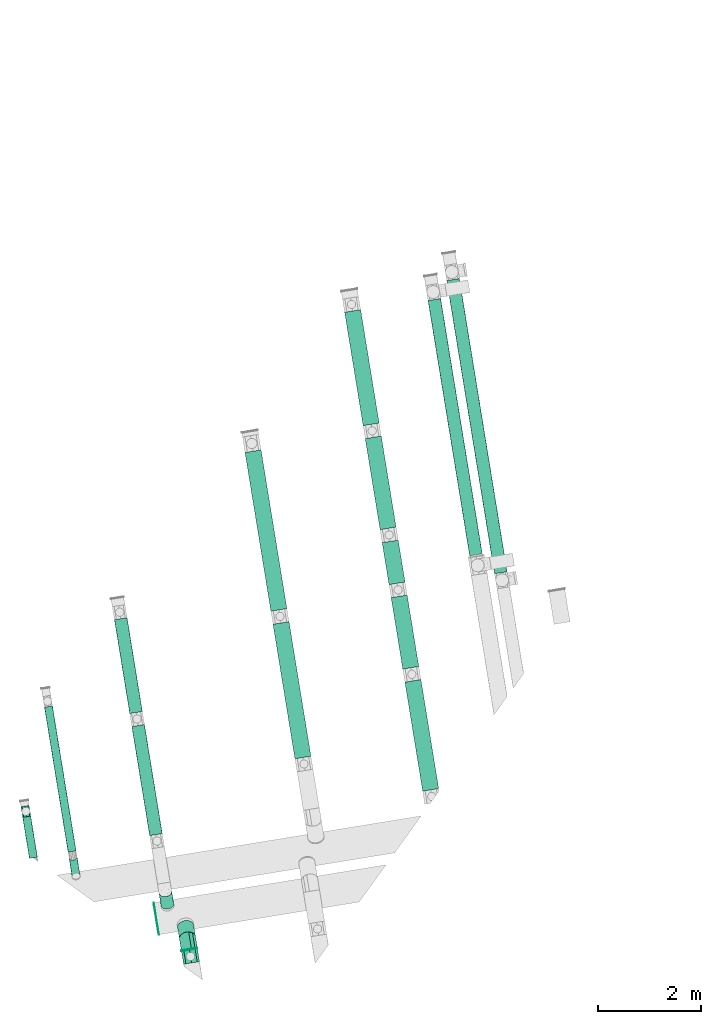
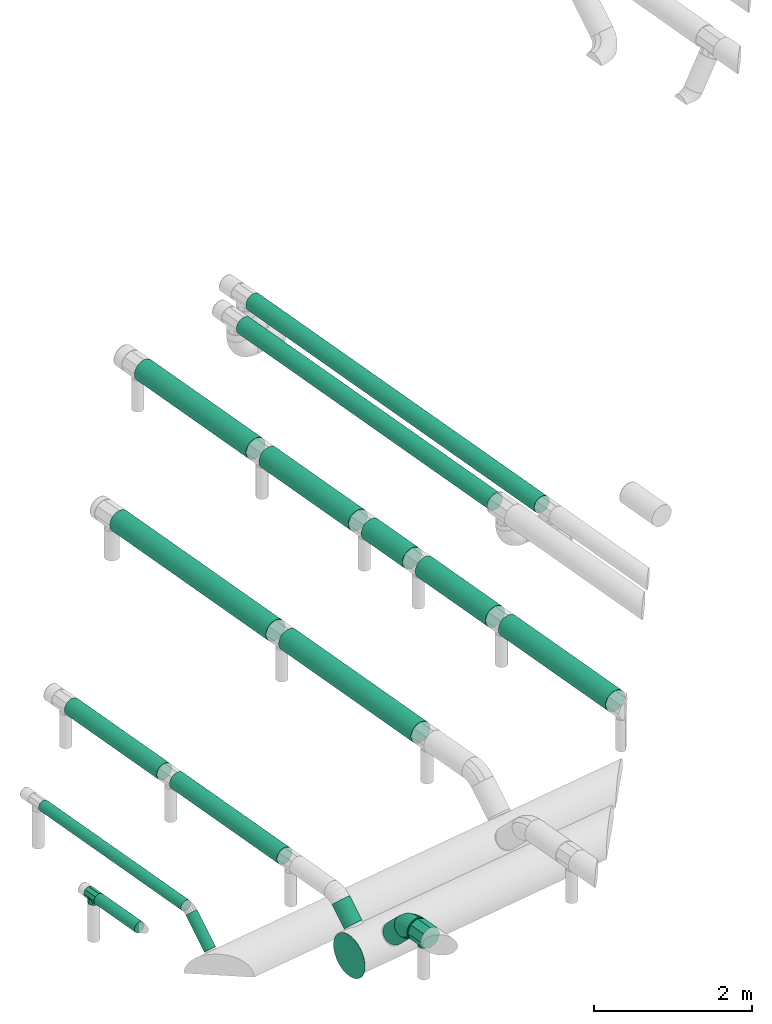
# One storey, part 1 of 15: 17 flow segments, 4 flow fittings.
"""IFC2X3 building model written with IfcOpenShell, lengths in millimetres."""

import ifcopenshell
import ifcopenshell.guid

model = None  # the IFC model being written
_history = None  # IfcOwnerHistory: only IFC2X3 demands one
_inside = {}  # id of a spatial element -> (the spatial element, [elements in it])
_under = {}  # id of a project, library or spatial element -> (it, [spatial elements below it])
_declared = {}  # id of a project -> (the project, [libraries it declares])
_typed = {}  # id of a type object -> (the type object, [elements of that type])
_made_of = {}  # id of a material, layer set ... -> (it, [elements and type objects made of it])


def new_model(schema):
    """Start an empty IFC model of exactly this schema.

    Asked for "IFC4X3", IfcOpenShell would pick the latest addendum, in which some entities
    have other attributes; the version numbers below select the first issue.
    IFC2X3 requires an IfcOwnerHistory on every rooted entity: one is made here for all.
    """
    global model, _history
    if schema == "IFC4X3":
        model = ifcopenshell.file(schema_version=(4, 3, 0, 0))
    else:
        model = ifcopenshell.file(schema=schema)
    _inside.clear()
    _under.clear()
    _declared.clear()
    _typed.clear()
    _made_of.clear()
    _history = None
    if model.schema == "IFC2X3":
        org = make("IfcOrganization", Name="unknown")
        user = make(
            "IfcPersonAndOrganization",
            ThePerson=make("IfcPerson", FamilyName="unknown"),
            TheOrganization=org,
        )
        app = make(
            "IfcApplication",
            ApplicationDeveloper=org,
            Version="unknown",
            ApplicationFullName="unknown",
            ApplicationIdentifier="unknown",
        )
        _history = make(
            "IfcOwnerHistory",
            OwningUser=user,
            OwningApplication=app,
            ChangeAction="ADDED",
            CreationDate=0,
        )
    return model


def make(cls, **values):
    """One entity of the class cls with the attributes given. An attribute that is None is left unset."""
    return model.create_entity(
        cls, **{name: value for name, value in values.items() if value is not None}
    )


def entity(cls, *values):
    """Any entity or typed value of the class cls, its attributes in the order of the schema. None: left unset."""
    e = model.create_entity(cls)
    for i, value in enumerate(values):
        if value is not None:
            e[i] = value
    return e


def rooted(cls, **values):
    """An entity with a GlobalId (a new one), such as an element, a storey or a relation."""
    return make(cls, GlobalId=ifcopenshell.guid.new(), OwnerHistory=_history, **values)


def si_unit(unit_type, name, prefix=None):
    """IfcSIUnit, for example si_unit("LENGTHUNIT", "METRE", prefix="MILLI")."""
    return make("IfcSIUnit", UnitType=unit_type, Prefix=prefix, Name=name)


def converted_unit(unit_type, name, factor, base, dimensions=None, offset=None):
    """IfcConversionBasedUnit, such as the inch: factor (a typed value) times the base unit."""
    return make(
        "IfcConversionBasedUnit"
        if offset is None
        else "IfcConversionBasedUnitWithOffset",
        ConversionOffset=offset,
        Dimensions=None
        if dimensions is None
        else entity("IfcDimensionalExponents", *dimensions),
        UnitType=unit_type,
        Name=name,
        ConversionFactor=make(
            "IfcMeasureWithUnit", ValueComponent=factor, UnitComponent=base
        ),
    )


def derived_unit(unit_type, elements):
    """IfcDerivedUnit: a product of units, each with its exponent."""
    return make(
        "IfcDerivedUnit",
        Elements=[
            make("IfcDerivedUnitElement", Unit=unit, Exponent=power)
            for unit, power in elements
        ],
        UnitType=unit_type,
    )


def assignment(units):
    """IfcUnitAssignment: the units of a project."""
    return None if units is None else make("IfcUnitAssignment", Units=units)


def point(xyz):
    """IfcCartesianPoint."""
    return None if xyz is None else make("IfcCartesianPoint", Coordinates=xyz)


def direction(xyz):
    """IfcDirection."""
    return None if xyz is None else make("IfcDirection", DirectionRatios=xyz)


def frame(location, z_axis=None, x_axis=None):
    """IfcAxis2Placement3D, a coordinate frame: its origin and axes. An axis left out is left unset."""
    return make(
        "IfcAxis2Placement3D",
        Location=point(location),
        Axis=direction(z_axis),
        RefDirection=direction(x_axis),
    )


def frame_2d(location, x_axis=None):
    """IfcAxis2Placement2D, a coordinate frame in the plane: its origin and x axis."""
    return make(
        "IfcAxis2Placement2D", Location=point(location), RefDirection=direction(x_axis)
    )


def origin():
    """The frame at (0, 0, 0) with its axes left unset."""
    return frame((0.0, 0.0, 0.0))


def origin_with_axes():
    """The frame at (0, 0, 0) with the z axis (0, 0, 1) and the x axis (1, 0, 0) written out."""
    return frame((0.0, 0.0, 0.0), z_axis=(0.0, 0.0, 1.0), x_axis=(1.0, 0.0, 0.0))


def origin_2d_with_axis():
    """The frame at (0, 0) in the plane with the x axis (1, 0) written out."""
    return frame_2d((0.0, 0.0), x_axis=(1.0, 0.0))


def place(relative_to, where):
    """IfcLocalPlacement: puts the frame where relative to a parent placement (None: the world)."""
    return make(
        "IfcLocalPlacement", PlacementRelTo=relative_to, RelativePlacement=where
    )


def context(
    kind, dimensions, precision=None, world=None, true_north=None, identifier=None
):
    """IfcGeometricRepresentationContext, for example the 3D "Model" context."""
    return make(
        "IfcGeometricRepresentationContext",
        ContextIdentifier=identifier,
        ContextType=kind,
        CoordinateSpaceDimension=dimensions,
        Precision=precision,
        WorldCoordinateSystem=world,
        TrueNorth=true_north,
    )


def subcontext(parent, identifier, kind, view, scale=None):
    """IfcGeometricRepresentationSubContext, for example "Body" below "Model"."""
    return make(
        "IfcGeometricRepresentationSubContext",
        ContextIdentifier=identifier,
        ContextType=kind,
        ParentContext=parent,
        TargetScale=scale,
        TargetView=view,
    )


def project(units=None, contexts=None):
    """IfcProject with its units and contexts."""
    return rooted(
        "IfcProject",
        Name="project",
        RepresentationContexts=contexts,
        UnitsInContext=assignment(units),
    )


def spatial(cls, under=None, at=None, **own):
    """A site, building, storey or space (cls), placed at a placement, below another one or the project."""
    s = rooted(cls, ObjectPlacement=at, **own)
    if under is not None:
        _under.setdefault(under.id(), (under, []))[1].append(s)
    return s


def profile(cls, at=None, kind="AREA", **sizes):
    """A parametric profile (cls). Its sizes go by their IFC names, for example OverallWidth=200.0."""
    return make(cls, ProfileType=kind, Position=at, **sizes)


def circle(**sizes):
    """IfcCircleProfileDef."""
    return profile("IfcCircleProfileDef", **sizes)


def extrude(swept, where, along, depth):
    """IfcExtrudedAreaSolid: the profile swept, set in the frame where, extruded along a direction by depth."""
    return make(
        "IfcExtrudedAreaSolid",
        SweptArea=swept,
        Position=where,
        ExtrudedDirection=direction(along),
        Depth=depth,
    )


def faces_of(points, faces, orient=None, outer=None):
    """IfcFace entities. A face is a list of loops; a loop is a list of indices into points, from 0.

    orient and outer hold one flag for each loop. By default every Orientation is true, the
    first loop of a face is its IfcFaceOuterBound and the others are IfcFaceBound.
    """
    made = []
    for i, loops in enumerate(faces):
        bounds = []
        for j, loop in enumerate(loops):
            is_outer = j == 0 if outer is None else outer[i][j]
            bounds.append(
                make(
                    "IfcFaceOuterBound" if is_outer else "IfcFaceBound",
                    Bound=make("IfcPolyLoop", Polygon=[points[k] for k in loop]),
                    Orientation=True if orient is None else orient[i][j],
                )
            )
        made.append(make("IfcFace", Bounds=bounds))
    return made


def faceted_brep(points, faces, orient=None, outer=None, voids=None):
    """IfcFacetedBrep: a solid bounded by flat faces; with voids (closed shells), ...WithVoids."""
    shared = [point(p) for p in points]
    hull = make("IfcClosedShell", CfsFaces=faces_of(shared, faces, orient, outer))
    if voids is None:
        return make("IfcFacetedBrep", Outer=hull)
    return make(
        "IfcFacetedBrepWithVoids",
        Outer=hull,
        Voids=[
            make(cls, CfsFaces=faces_of(shared, fs, o, b)) for cls, fs, o, b in voids
        ],
    )


def shape(context_of_items, identifier, shape_type, items):
    """IfcShapeRepresentation: the items that make up one representation, for example the "Body"."""
    return make(
        "IfcShapeRepresentation",
        ContextOfItems=context_of_items,
        RepresentationIdentifier=identifier,
        RepresentationType=shape_type,
        Items=items,
    )


def source(mapping_origin, context_of_items, identifier, shape_type, items):
    """IfcRepresentationMap: a shape defined once, which mapped items show again and again."""
    return make(
        "IfcRepresentationMap",
        MappingOrigin=mapping_origin,
        MappedRepresentation=shape(context_of_items, identifier, shape_type, items),
    )


def transform(
    local_origin,
    x_axis=None,
    y_axis=None,
    z_axis=None,
    scale=None,
    scale2=None,
    scale3=None,
    uniform=True,
):
    """IfcCartesianTransformationOperator3D, or its non-uniform kind. x_axis, y_axis, z_axis: its Axis1, 2, 3."""
    if uniform:
        return make(
            "IfcCartesianTransformationOperator3D",
            Axis1=direction(x_axis),
            Axis2=direction(y_axis),
            LocalOrigin=point(local_origin),
            Scale=scale,
            Axis3=direction(z_axis),
        )
    return make(
        "IfcCartesianTransformationOperator3DnonUniform",
        Axis1=direction(x_axis),
        Axis2=direction(y_axis),
        LocalOrigin=point(local_origin),
        Scale=scale,
        Axis3=direction(z_axis),
        Scale2=scale2,
        Scale3=scale3,
    )


def mapped(mapping_source, mapping_target):
    """IfcMappedItem: shows the shape of a source again, moved by a transform."""
    return make(
        "IfcMappedItem", MappingSource=mapping_source, MappingTarget=mapping_target
    )


def material(Name=None, Category=None):
    """IfcMaterial."""
    return make("IfcMaterial", Name=Name, Category=Category)


def made_of(thing, what):
    """Note that an element or type object is made of a material, layer set ...; save() writes the relation."""
    if what is not None:
        _made_of.setdefault(what.id(), (what, []))[1].append(thing)
    return thing


def type_object(cls, material=None, **own):
    """A type object (cls), such as IfcWallType, which elements share."""
    return made_of(rooted(cls, **own), material)


def element(
    cls,
    number,
    at=None,
    inside=None,
    cuts=None,
    type_object=None,
    material=None,
    context=None,
    identifier="Body",
    shape_type=None,
    held_by="IfcProductDefinitionShape",
    body=None,
    shapes=None,
    **own,
):
    """One element of the class cls, such as IfcWall. Its Tag is "e" and its number.

    at: its placement. inside: the storey or other place that contains it. cuts: it is an
    opening in that element (IfcRelVoidsElement). A single representation is given by context,
    identifier, shape_type and body (its items); several are given by shapes. held_by: the class
    of the entity that holds the representations. save() writes the other relations.
    """
    e = rooted(cls, Tag="e%d" % number, ObjectPlacement=at, **own)
    if body is not None:
        shapes = [shape(context, identifier, shape_type, body)]
    if shapes is not None:
        e.Representation = make(held_by, Representations=shapes)
    if inside is not None:
        _inside.setdefault(inside.id(), (inside, []))[1].append(e)
    if cuts is not None:
        rooted(
            "IfcRelVoidsElement", RelatingBuildingElement=cuts, RelatedOpeningElement=e
        )
    if type_object is not None:
        _typed.setdefault(type_object.id(), (type_object, []))[1].append(e)
    return made_of(e, material)


def aggregate(whole, parts):
    """IfcRelAggregates: a whole, such as a stair, and the parts it consists of."""
    return rooted("IfcRelAggregates", RelatingObject=whole, RelatedObjects=parts)


def save(model, path):
    """Write the relations noted so far, then the file.

    IfcRelAggregates (storeys below a building ...), IfcRelContainedInSpatialStructure (elements
    in a storey), IfcRelDefinesByType, IfcRelAssociatesMaterial and IfcRelDeclares: one each for
    every whole, place, type object, material and project.
    """
    for whole, parts in _under.values():
        aggregate(whole, parts)
    for where, things in _inside.values():
        rooted(
            "IfcRelContainedInSpatialStructure",
            RelatedElements=things,
            RelatingStructure=where,
        )
    for kind, things in _typed.values():
        rooted("IfcRelDefinesByType", RelatedObjects=things, RelatingType=kind)
    for what, things in _made_of.values():
        rooted("IfcRelAssociatesMaterial", RelatedObjects=things, RelatingMaterial=what)
    for by, libraries in _declared.values():
        rooted("IfcRelDeclares", RelatingContext=by, RelatedDefinitions=libraries)
    model.write(path)


model = new_model("IFC2X3")

# Units and contexts
model_context = context("Model", 3, precision=0.01, world=origin(), true_north=direction((6.12323399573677e-17, 1.0)))
plan_context = context("Plan", 3, precision=1e-05, world=origin_with_axes())
body_context = subcontext(model_context, "Body", "Model", "MODEL_VIEW")
ifc_project = project(units=[converted_unit("PLANEANGLEUNIT", "DEGREE", entity("IfcPositiveLengthMeasure", 0.0174532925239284), si_unit("PLANEANGLEUNIT", "RADIAN"), dimensions=[0, 0, 0, 0, 0, 0, 0]), si_unit("AREAUNIT", "SQUARE_METRE"), si_unit("LENGTHUNIT", "METRE", prefix="MILLI"), si_unit("MASSUNIT", "GRAM", prefix="KILO"), si_unit("POWERUNIT", "WATT"), si_unit("PRESSUREUNIT", "PASCAL", prefix="KILO"), si_unit("FORCEUNIT", "NEWTON", prefix="KILO"), si_unit("ELECTRICVOLTAGEUNIT", "VOLT"), si_unit("ELECTRICCURRENTUNIT", "AMPERE"), si_unit("THERMODYNAMICTEMPERATUREUNIT", "DEGREE_CELSIUS"), si_unit("TIMEUNIT", "SECOND"), si_unit("VOLUMEUNIT", "CUBIC_METRE"), derived_unit("LINEARVELOCITYUNIT", [(si_unit("LENGTHUNIT", "METRE"), 1), (si_unit("TIMEUNIT", "SECOND"), -1)]), derived_unit("VOLUMETRICFLOWRATEUNIT", [(si_unit("VOLUMEUNIT", "CUBIC_METRE"), 1), (si_unit("TIMEUNIT", "SECOND"), -1)]), derived_unit("THERMALTRANSMITTANCEUNIT", [(si_unit("POWERUNIT", "WATT"), 1), (si_unit("THERMODYNAMICTEMPERATUREUNIT", "KELVIN"), -1), (si_unit("AREAUNIT", "SQUARE_METRE"), -1)]), derived_unit("SOUNDPRESSUREUNIT", [(si_unit("PRESSUREUNIT", "PASCAL"), 1)])], contexts=[model_context, plan_context])

# Site, building, storey
site_placement = place(None, frame((5.09380697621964e-08, 5.80416781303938e-08, 0.0), z_axis=(0.0, 0.0, 1.0), x_axis=(-0.160806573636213, 0.986985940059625, 0.0)))
site = spatial("IfcSite", under=ifc_project, at=site_placement, Name="Default", CompositionType="ELEMENT")
building_placement = place(site_placement, frame((0.0, 0.0, 0.0), z_axis=(0.0, 0.0, 1.0), x_axis=(1.0, -2.77555756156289e-17, 0.0)))
building = spatial("IfcBuilding", under=site, at=building_placement, Name="Bygning (endres i Project Information)", CompositionType="ELEMENT")
storey_placement = place(building_placement, frame((0.0, 0.0, 51360.0000000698), z_axis=(0.0, 0.0, 1.0), x_axis=(1.0, -2.77555756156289e-17, 0.0)))
storey = spatial("IfcBuildingStorey", under=building, at=storey_placement, Name="H01-Nivå D+0,36", CompositionType="ELEMENT", Elevation=51360.0000000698)

# Flow fittings
ifc_material_1 = material(Name="DF_Material1")
duct_fitting_type_1 = type_object("IfcDuctFittingType", Name="Lindab TCPU:TCPU", PredefinedType="NOTDEFINED", material=ifc_material_1)
shared_shape_1 = source(origin(), body_context, "Body", "Brep", [
    faceted_brep([(104.500000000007, -56.56854258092, 56.5685425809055), (63.1966424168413, -63.1966424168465, 32.5870493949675), (104.500000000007, -80.0000001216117, 0.0), (80.0000001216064, -80.0000001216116, 0.0), (46.3932847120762, -46.3932847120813, 65.1740987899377), (104.500000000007, 0.0, 80.0000001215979), (0.0, 0.0, 80.0000001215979), (0.0, 0.0, -80.0000001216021), (104.500000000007, 0.0, -80.0000001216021), (56.680726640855, -56.6807266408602, -56.4561356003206), (104.500000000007, -56.5685425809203, -56.568542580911), (80.0000001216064, -105.0, 0.0), (56.5685425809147, -105.0, 56.5685425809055), (0.0, -105.0, 80.0000001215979), (-56.5685425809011, -105.0, 56.5685425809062), (-80.0000001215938, -105.0, 0.0), (-56.568542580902, -105.0, -56.5685425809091), (0.0, -105.0, -80.0000001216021), (56.568542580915, -105.0, -56.568542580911), (-56.6807266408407, -56.6807266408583, 56.4561356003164), (-80.0000001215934, -80.0000001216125, 0.0), (-63.1966424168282, -63.1966424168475, -32.5870493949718), (-46.3932847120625, -46.3932847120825, -65.1740987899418), (-104.499999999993, -80.000000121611, 0.0), (-104.499999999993, -56.5685425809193, 56.5685425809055), (-104.499999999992, 0.0, 80.0000001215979), (-104.499999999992, 56.5685425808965, 56.5685425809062), (-104.499999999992, 80.0000001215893, 0.0), (-104.499999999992, 56.5685425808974, -56.5685425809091), (-104.499999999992, 0.0, -80.0000001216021), (-104.499999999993, -56.5685425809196, -56.568542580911), (104.500000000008, 56.5685425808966, -56.5685425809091), (104.500000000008, 80.000000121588, 0.0), (104.500000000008, 56.5685425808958, 56.5685425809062)], [[[0, 1, 2]], [[2, 1, 3]], [[4, 5, 6]], [[5, 4, 0]], [[0, 4, 1]], [[7, 8, 9]], [[9, 8, 10]], [[10, 3, 9]], [[3, 10, 2]], [[11, 12, 13, 14, 15, 16, 17, 18]], [[13, 19, 14]], [[19, 13, 6]], [[20, 15, 14]], [[20, 14, 19]], [[15, 20, 16]], [[16, 20, 21, 22]], [[22, 7, 17]], [[22, 17, 16]], [[17, 9, 18]], [[9, 17, 7]], [[3, 11, 18]], [[3, 18, 9]], [[11, 3, 12]], [[12, 3, 1, 4]], [[4, 6, 13]], [[4, 13, 12]], [[23, 24, 25, 26, 27, 28, 29, 30]], [[0, 2, 10, 8, 31, 32, 33, 5]], [[25, 6, 5, 33, 26]], [[33, 32, 27, 26]], [[32, 31, 28, 27]], [[31, 8, 7, 29, 28]], [[7, 22, 29]], [[30, 22, 21]], [[29, 22, 30]], [[21, 23, 30]], [[23, 21, 20]], [[24, 23, 20]], [[24, 20, 19]], [[19, 25, 24]], [[25, 19, 6]]]),
])
flow_fitting_1_placement = place(storey_placement, frame((996792.70487067, -337705.59332722, 3804.40000000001), z_axis=(0.0, -1.0, 0.0), x_axis=(0.999999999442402, 0.0, 3.33945577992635e-05)))
element("IfcFlowFitting", 1, at=flow_fitting_1_placement, inside=storey, type_object=duct_fitting_type_1, material=ifc_material_1, Name="Lindab TCPU:TCPU", ObjectType="Lindab TCPU:TCPU", context=body_context, shape_type="MappedRepresentation", body=[
    mapped(shared_shape_1, transform((0.0, 0.0, 0.0), scale=1.0)),
])
duct_fitting_type_2 = type_object("IfcDuctFittingType", Name="Lindab ESU:ESU", PredefinedType="NOTDEFINED", material=ifc_material_1)
shared_shape_2 = source(origin(), body_context, "Body", "SweptSolid", [
    extrude(circle(Radius=315.000000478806, at=frame_2d((-1.10445267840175e-12, -1.25792074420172e-12), x_axis=(1.0, 0.0))), frame((0.0, 0.0, 0.0), z_axis=(1.0, 0.0, 0.0), x_axis=(0.0, 1.0, 0.0)), (0.0, 0.0, 1.0), 4.00000000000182),
])
flow_fitting_2_placement = place(storey_placement, frame((994331.171928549, -339870.486591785, 3250.00000038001), z_axis=(0.0, 0.0, 1.0), x_axis=(2.77555756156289e-17, 1.0, 0.0)))
element("IfcFlowFitting", 2, at=flow_fitting_2_placement, inside=storey, type_object=duct_fitting_type_2, material=ifc_material_1, Name="Lindab ESU:ESU", ObjectType="Lindab ESU:ESU", context=body_context, shape_type="MappedRepresentation", body=[
    mapped(shared_shape_2, transform((0.0, 0.0, 0.0), scale=1.0)),
])
duct_fitting_type_3 = type_object("IfcDuctFittingType", Name="Lindab TCPU:TCPU", PredefinedType="NOTDEFINED", material=ifc_material_1)
shared_shape_3 = source(origin(), body_context, "Body", "Brep", [
    faceted_brep([(80.0000001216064, -182.0, 0.0), (56.5685425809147, -182.0, 56.5685425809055), (0.0, -182.0, 80.0000001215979), (-56.5685425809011, -182.0, 56.5685425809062), (-80.0000001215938, -182.0, 0.0), (-56.568542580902, -182.0, -56.5685425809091), (0.0, -182.0, -80.0000001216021), (56.568542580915, -182.0, -56.568542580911), (-61.1652823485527, -148.820166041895, 51.5636330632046), (0.0, -135.66963571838, 80.0000001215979), (-80.0000001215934, -157.500000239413, 0.0), (-51.4607662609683, -145.101552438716, -61.2518534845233), (0.0, -135.669635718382, -80.0000001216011), (61.1652823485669, -148.820166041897, -51.5636330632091), (80.0000001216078, -157.500000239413, 0.0), (51.4669231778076, -145.103736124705, 61.2466802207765), (-128.0, -157.500000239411, 0.0), (-128.0, -134.434659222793, 55.6846591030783), (-128.0, -111.369318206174, 111.36931820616), (-128.0, 0.0, 157.500000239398), (-128.0, 111.369318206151, 111.369318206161), (-128.0, 157.500000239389, 0.0), (-128.0, 111.369318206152, -111.369318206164), (-128.0, 0.0, -157.500000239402), (-128.0, -111.369318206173, -111.369318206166), (-128.0, -134.434659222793, -55.6846591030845), (128.0, 0.0, -157.500000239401), (128.0, 111.369318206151, -111.369318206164), (128.0, 157.500000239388, 0.0), (128.0, 111.36931820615, 111.369318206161), (128.0, 0.0, 157.500000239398), (128.0, -111.369318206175, 111.36931820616), (128.0, -134.434659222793, 55.6846591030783), (128.0, -157.500000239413, 0.0), (128.0, -134.434659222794, -55.6846591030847), (128.0, -111.369318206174, -111.369318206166)], [[[0, 1, 2, 3, 4, 5, 6, 7]], [[2, 8, 3]], [[8, 2, 9]], [[10, 4, 3]], [[10, 3, 8]], [[10, 5, 4]], [[5, 10, 11]], [[11, 12, 6]], [[11, 6, 5]], [[6, 13, 7]], [[13, 6, 12]], [[14, 0, 7]], [[14, 7, 13]], [[14, 1, 0]], [[1, 14, 15]], [[15, 9, 2]], [[15, 2, 1]], [[16, 17, 18, 19, 20, 21, 22, 23, 24, 25]], [[26, 27, 28, 29, 30, 31, 32, 33, 34, 35]], [[20, 19, 30, 29]], [[29, 28, 21, 20]], [[28, 27, 22, 21]], [[27, 26, 23, 22]], [[26, 35, 24, 23]], [[24, 35, 12]], [[24, 12, 11]], [[35, 13, 12]], [[13, 33, 14]], [[33, 13, 35, 34]], [[10, 16, 25]], [[11, 25, 24]], [[10, 25, 11]], [[14, 32, 15]], [[16, 10, 8]], [[16, 8, 18, 17]], [[33, 32, 14]], [[9, 15, 31]], [[31, 15, 32]], [[19, 18, 31, 30]], [[31, 18, 9]], [[18, 8, 9]]]),
])
flow_fitting_3_placement = place(storey_placement, frame((993501.492374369, -340406.158897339, 3804.29489743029), z_axis=(2.77555756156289e-17, 1.0, 0.0), x_axis=(-1.0, 2.77555756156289e-17, 0.0)))
element("IfcFlowFitting", 3, at=flow_fitting_3_placement, inside=storey, type_object=duct_fitting_type_3, material=ifc_material_1, Name="Lindab TCPU:TCPU", ObjectType="Lindab TCPU:TCPU", context=body_context, shape_type="MappedRepresentation", body=[
    mapped(shared_shape_3, transform((0.0, 0.0, 0.0), scale=1.0)),
])
ifc_material_2 = material(Name="3601.001 Avtrekk")
duct_fitting_type_4 = type_object("IfcDuctFittingType", Name="magicirc_elbow_full_radius_NOR:magicirc_elbow_full_radius_NOR", PredefinedType="NOTDEFINED", material=ifc_material_2)
shared_shape_4 = source(origin(), body_context, "Body", "Brep", [
    faceted_brep([(-38.2970950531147, -148.421045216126, 0.0), (-39.3440828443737, -143.157482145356, 40.7639996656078), (-130.477272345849, -152.133317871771, 40.7639996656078), (-130.477272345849, -157.5000002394, 0.0), (-42.4136957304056, -127.72549605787, 78.7500001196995), (-130.477272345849, -136.399001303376, 78.7500001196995), (-47.2967446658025, -103.176751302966, 111.369318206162), (-130.477272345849, -111.369318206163, 111.369318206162), (-53.6604579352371, -71.1842042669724, 136.399001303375), (-130.477272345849, -78.7500001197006, 136.399001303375), (-61.0711589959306, -33.928094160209, 152.133317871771), (-130.477272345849, -40.763999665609, 152.133317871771), (-69.0238208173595, 6.05263668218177, 157.5000002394), (-130.477272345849, 0.0, 157.5000002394), (-76.9764826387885, 46.0333675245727, 152.133317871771), (-130.477272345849, 40.7639996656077, 152.133317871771), (-84.3871836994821, 83.2894776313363, 136.399001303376), (-130.477272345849, 78.7500001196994, 136.399001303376), (-90.7508969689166, 115.28202466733, 111.369318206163), (-130.477272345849, 111.369318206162, 111.369318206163), (-98.7035587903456, 155.262755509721, 40.7639996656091), (-130.47727234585, 152.133317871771, 40.7639996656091), (-99.7505465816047, 160.526318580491, 0.0), (-130.47727234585, 157.5000002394, 0.0), (-98.7035587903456, 155.262755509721, -40.7639996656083), (-130.47727234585, 152.133317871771, -40.7639996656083), (-95.6339459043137, 139.830769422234, -78.7500001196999), (-130.47727234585, 136.399001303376, -78.7500001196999), (-90.7508969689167, 115.28202466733, -111.369318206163), (-130.477272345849, 111.369318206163, -111.369318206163), (-84.3871836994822, 83.289477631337, -136.399001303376), (-130.477272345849, 78.7500001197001, -136.399001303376), (-76.9764826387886, 46.0333675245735, -152.133317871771), (-130.477272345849, 40.7639996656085, -152.133317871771), (-69.0238208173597, 6.0526366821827, -157.5000002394), (-130.477272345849, 0.0, -157.5000002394), (-61.0711589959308, -33.9280941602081, -152.133317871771), (-130.477272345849, -40.763999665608, -152.133317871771), (-53.6604579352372, -71.1842042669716, -136.399001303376), (-130.477272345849, -78.7500001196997, -136.399001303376), (-47.2967446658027, -103.176751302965, -111.369318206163), (-130.477272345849, -111.369318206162, -111.369318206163), (-39.3440828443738, -143.157482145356, -40.7639996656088), (-130.477272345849, -152.133317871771, -40.7639996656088), (50.340649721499, -121.533079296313, 0.0), (48.2869092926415, -116.574911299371, 40.7639996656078), (42.2656470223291, -102.038298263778, 78.7500001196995), (32.6872019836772, -78.9138863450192, 111.369318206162), (20.2043293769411, -48.7775660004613, 136.399001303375), (5.66771634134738, -13.6830776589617, 152.133317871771), (-9.93199096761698, 23.9779472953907, 157.5000002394), (-25.5316982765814, 61.6389722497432, 152.133317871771), (-40.0683113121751, 96.733460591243, 136.399001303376), (-52.5511839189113, 126.869780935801, 111.369318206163), (-68.1508912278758, 164.530805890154, 40.7639996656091), (-70.2046316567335, 169.488973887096, 0.0), (-68.1508912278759, 164.530805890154, -40.7639996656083), (-62.1296289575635, 149.99419285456, -78.7500001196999), (-52.5511839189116, 126.869780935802, -111.369318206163), (-40.0683113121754, 96.7334605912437, -136.399001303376), (-25.5316982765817, 61.638972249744, -152.133317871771), (-9.93199096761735, 23.9779472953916, -157.5000002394), (5.66771634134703, -13.6830776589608, -152.133317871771), (20.2043293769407, -48.7775660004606, -136.399001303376), (32.6872019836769, -78.9138863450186, -111.369318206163), (48.2869092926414, -116.574911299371, -40.7639996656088), (132.029663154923, -77.8693919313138, 0.0), (129.048094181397, -73.4071586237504, 40.7639996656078), (120.30657625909, -60.3245525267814, 78.7500001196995), (106.400829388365, -39.5131316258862, 111.369318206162), (88.2785072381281, -12.3911598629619, 136.399001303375), (67.1746161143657, 19.1930452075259, 152.133317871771), (44.5273513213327, 53.0870722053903, 157.5000002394), (21.8800865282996, 86.9810992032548, 152.133317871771), (0.776195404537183, 118.565304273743, 136.399001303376), (-17.3461267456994, 145.687276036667, 111.369318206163), (-39.9933915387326, 179.581303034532, 40.7639996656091), (-42.9749605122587, 184.043536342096, 0.0), (-39.9933915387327, 179.581303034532, -40.7639996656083), (-31.2518736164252, 166.498696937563, -78.7500001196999), (-17.3461267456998, 145.687276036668, -111.369318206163), (0.776195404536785, 118.565304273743, -136.399001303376), (21.8800865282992, 86.9810992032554, -152.133317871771), (44.5273513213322, 53.0870722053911, -157.5000002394), (67.1746161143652, 19.1930452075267, -152.133317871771), (88.2785072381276, -12.3911598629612, -136.399001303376), (106.400829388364, -39.5131316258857, -111.369318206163), (129.048094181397, -73.4071586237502, -40.7639996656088), (203.630682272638, -19.1079541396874, 0.0), (199.835864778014, -15.3131366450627, 40.7639996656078), (188.710022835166, -4.18729470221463, 78.7500001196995), (171.011364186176, 13.5113639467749, 111.369318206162), (147.946023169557, 36.5767049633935, 136.399001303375), (121.085864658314, 63.4368634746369, 152.133317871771), (92.2613640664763, 92.2613640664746, 157.5000002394), (63.4368634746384, 121.085864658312, 152.133317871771), (36.5767049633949, 147.946023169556, 136.399001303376), (13.5113639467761, 171.011364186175, 111.369318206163), (-15.3131366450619, 199.835864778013, 40.7639996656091), (-19.1079541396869, 203.630682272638, 0.0), (-15.3131366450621, 199.835864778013, -40.7639996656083), (-4.18729470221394, 188.710022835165, -78.7500001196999), (13.5113639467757, 171.011364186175, -111.369318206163), (36.5767049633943, 147.946023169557, -136.399001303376), (63.4368634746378, 121.085864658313, -152.133317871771), (92.2613640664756, 92.2613640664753, -157.5000002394), (121.085864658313, 63.4368634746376, -152.133317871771), (147.946023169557, 36.576704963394, -136.399001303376), (171.011364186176, 13.5113639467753, -111.369318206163), (199.835864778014, -15.3131366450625, -40.7639996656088)], [[[0, 1, 2, 3]], [[1, 4, 5, 2]], [[4, 6, 7, 5]], [[6, 8, 9, 7]], [[8, 10, 11, 9]], [[10, 12, 13, 11]], [[12, 14, 15, 13]], [[14, 16, 17, 15]], [[16, 18, 19, 17]], [[18, 20, 21, 19]], [[20, 22, 23, 21]], [[22, 24, 25, 23]], [[24, 26, 27, 25]], [[26, 28, 29, 27]], [[28, 30, 31, 29]], [[30, 32, 33, 31]], [[32, 34, 35, 33]], [[34, 36, 37, 35]], [[36, 38, 39, 37]], [[38, 40, 41, 39]], [[40, 42, 43, 41]], [[42, 0, 3, 43]], [[44, 45, 1, 0]], [[45, 46, 4, 1]], [[46, 47, 6, 4]], [[47, 48, 8, 6]], [[48, 49, 10, 8]], [[49, 50, 12, 10]], [[50, 51, 14, 12]], [[51, 52, 16, 14]], [[52, 53, 18, 16]], [[53, 54, 20, 18]], [[54, 55, 22, 20]], [[55, 56, 24, 22]], [[56, 57, 26, 24]], [[57, 58, 28, 26]], [[58, 59, 30, 28]], [[59, 60, 32, 30]], [[60, 61, 34, 32]], [[61, 62, 36, 34]], [[62, 63, 38, 36]], [[63, 64, 40, 38]], [[64, 65, 42, 40]], [[65, 44, 0, 42]], [[66, 67, 45, 44]], [[67, 68, 46, 45]], [[68, 69, 47, 46]], [[69, 70, 48, 47]], [[70, 71, 49, 48]], [[71, 72, 50, 49]], [[72, 73, 51, 50]], [[73, 74, 52, 51]], [[74, 75, 53, 52]], [[75, 76, 54, 53]], [[76, 77, 55, 54]], [[77, 78, 56, 55]], [[78, 79, 57, 56]], [[79, 80, 58, 57]], [[80, 81, 59, 58]], [[81, 82, 60, 59]], [[82, 83, 61, 60]], [[83, 84, 62, 61]], [[84, 85, 63, 62]], [[85, 86, 64, 63]], [[86, 87, 65, 64]], [[87, 66, 44, 65]], [[88, 89, 67, 66]], [[89, 90, 68, 67]], [[90, 91, 69, 68]], [[91, 92, 70, 69]], [[92, 93, 71, 70]], [[93, 94, 72, 71]], [[94, 95, 73, 72]], [[95, 96, 74, 73]], [[96, 97, 75, 74]], [[97, 98, 76, 75]], [[98, 99, 77, 76]], [[99, 100, 78, 77]], [[100, 101, 79, 78]], [[101, 102, 80, 79]], [[102, 103, 81, 80]], [[103, 104, 82, 81]], [[104, 105, 83, 82]], [[105, 106, 84, 83]], [[106, 107, 85, 84]], [[107, 108, 86, 85]], [[108, 109, 87, 86]], [[109, 88, 66, 87]], [[3, 2, 5, 7, 9, 11, 13, 15, 17, 19, 21, 23, 25, 27, 29, 31, 33, 35, 37, 39, 41, 43]], [[109, 108, 107, 106, 105, 104, 103, 102, 101, 100, 99, 98, 97, 96, 95, 94, 93, 92, 91, 90, 89, 88]]]),
])
flow_fitting_4_placement = place(storey_placement, frame((993776.877031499, -340406.158897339, 3804.29489743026), z_axis=(2.77555756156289e-17, 1.0, 0.0), x_axis=(1.0, -2.77555756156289e-17, 0.0)))
element("IfcFlowFitting", 4, at=flow_fitting_4_placement, inside=storey, type_object=duct_fitting_type_4, material=ifc_material_2, Name="magicirc_elbow_full_radius_NOR:magicirc_elbow_full_radius_NOR", ObjectType="magicirc_elbow_full_radius_NOR:magicirc_elbow_full_radius_NOR", context=body_context, shape_type="MappedRepresentation", body=[
    mapped(shared_shape_4, transform((0.0, 0.0, 0.0), scale=1.0)),
])

# Flow segments
ifc_material_3 = material(Name="3601.001 Tilluft")
duct_segment_type = type_object("IfcDuctSegmentType", Name="Round Duct:Sirkulær kanal", PredefinedType="NOTDEFINED", material=ifc_material_3)
flow_segment_1_placement = place(storey_placement, frame((0.0, 0.0, 0.0), z_axis=(0.0, 0.0, 1.0), x_axis=(1.0, -2.77555756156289e-17, 0.0)))
element("IfcFlowSegment", 5, at=flow_segment_1_placement, inside=storey, type_object=duct_segment_type, Name="Round Duct:Sirkulær kanal", ObjectType="Round Duct:Sirkulær kanal", context=body_context, shape_type="SweptSolid", body=[
    extrude(circle(Radius=80.0000001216, at=origin_2d_with_axis()), frame((995880.882774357, -337705.593327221, 3804.37077535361), z_axis=(1.0, 0.0, 3.18768867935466e-05), x_axis=(0.0, -1.0, 0.0)), (0.0, 0.0, 1.0), 807.322096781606),
])
flow_segment_2_placement = place(storey_placement, frame((0.0, 0.0, 0.0), z_axis=(0.0, 0.0, 1.0), x_axis=(1.0, -2.77555756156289e-17, 0.0)))
element("IfcFlowSegment", 6, at=flow_segment_2_placement, inside=storey, type_object=duct_segment_type, Name="Round Duct:Sirkulær kanal", ObjectType="Round Duct:Sirkulær kanal", context=body_context, shape_type="SweptSolid", body=[
    extrude(circle(Radius=80.0000001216, at=frame_2d((0.0, 4.62871922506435e-15), x_axis=(1.0, 0.0))), frame((995880.811344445, -338465.550404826, 3804.30142749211), z_axis=(1.0, 0.0, 3.33945578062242e-05), x_axis=(0.0, -1.0, 0.0)), (0.0, 0.0, 1.0), 2847.25364961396),
])
flow_segment_3_placement = place(storey_placement, frame((0.0, 0.0, 0.0), z_axis=(0.0, 0.0, 1.0), x_axis=(1.0, -2.77555756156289e-17, 0.0)))
element("IfcFlowSegment", 7, at=flow_segment_3_placement, inside=storey, type_object=duct_segment_type, Name="Round Duct:Sirkulær kanal", ObjectType="Round Duct:Sirkulær kanal", context=body_context, shape_type="SweptSolid", body=[
    extrude(circle(Radius=157.5000002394, at=origin_2d_with_axis()), frame((999859.859892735, -343179.24363092, 3804.40000000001), z_axis=(1.0, 0.0, 0.0), x_axis=(0.0, -1.0, 0.0)), (0.0, 0.0, 1.0), 3119.00000027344),
])
flow_segment_4_placement = place(storey_placement, frame((0.0, 0.0, 0.0), z_axis=(0.0, 0.0, 1.0), x_axis=(1.0, -2.77555756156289e-17, 0.0)))
element("IfcFlowSegment", 8, at=flow_segment_4_placement, inside=storey, type_object=duct_segment_type, Name="Round Duct:Sirkulær kanal", ObjectType="Round Duct:Sirkulær kanal", context=body_context, shape_type="SweptSolid", body=[
    extrude(circle(Radius=157.5000002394, at=origin_2d_with_axis()), frame((996959.859892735, -343179.24363092, 3804.4), z_axis=(1.0, 0.0, 0.0), x_axis=(0.0, -1.0, 0.0)), (0.0, 0.0, 1.0), 2643.99999999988),
])
flow_segment_5_placement = place(storey_placement, frame((0.0, 0.0, 0.0), z_axis=(0.0, 0.0, 1.0), x_axis=(1.0, -2.77555756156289e-17, 0.0)))
element("IfcFlowSegment", 9, at=flow_segment_5_placement, inside=storey, type_object=duct_segment_type, Name="Round Duct:Sirkulær kanal", ObjectType="Round Duct:Sirkulær kanal", context=body_context, shape_type="SweptSolid", body=[
    extrude(circle(Radius=125.00000019, at=origin_2d_with_axis()), frame((999879.859892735, -347544.675938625, 3804.40000000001), z_axis=(1.0, 0.0, 0.0), x_axis=(0.0, -1.0, 0.0)), (0.0, 0.0, 1.0), 5762.48885473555),
])
flow_segment_6_placement = place(storey_placement, frame((0.0, 0.0, 0.0), z_axis=(0.0, 0.0, 1.0), x_axis=(1.0, -2.77555756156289e-17, 0.0)))
element("IfcFlowSegment", 10, at=flow_segment_6_placement, inside=storey, type_object=duct_segment_type, Name="Round Duct:Sirkulær kanal", ObjectType="Round Duct:Sirkulær kanal", context=body_context, shape_type="SweptSolid", body=[
    extrude(circle(Radius=125.00000019, at=origin_2d_with_axis()), frame((995941.187354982, -340124.100723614, 3804.29489743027), z_axis=(1.0, 0.0, 0.0), x_axis=(0.0, 1.0, 0.0)), (0.0, 0.0, 1.0), 2144.00000000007),
])
flow_segment_7_placement = place(storey_placement, frame((0.0, 0.0, 0.0), z_axis=(0.0, 0.0, 1.0), x_axis=(1.0, -2.77555756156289e-17, 0.0)))
element("IfcFlowSegment", 11, at=flow_segment_7_placement, inside=storey, type_object=duct_segment_type, Name="Round Duct:Sirkulær kanal", ObjectType="Round Duct:Sirkulær kanal", context=body_context, shape_type="SweptSolid", body=[
    extrude(circle(Radius=125.00000019, at=origin_2d_with_axis()), frame((998341.187354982, -340124.100723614, 3804.29489743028), z_axis=(1.0, 0.0, 0.0), x_axis=(0.0, 1.0, 0.0)), (0.0, 0.0, 1.0), 1844.00000000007),
])
flow_segment_8_placement = place(storey_placement, frame((0.0, 0.0, 0.0), z_axis=(0.0, 0.0, 1.0), x_axis=(1.0, -2.77555756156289e-17, 0.0)))
element("IfcFlowSegment", 12, at=flow_segment_8_placement, inside=storey, type_object=duct_segment_type, Name="Round Duct:Sirkulær kanal", ObjectType="Round Duct:Sirkulær kanal", context=body_context, shape_type="SweptSolid", body=[
    extrude(circle(Radius=157.5000002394, at=origin_2d_with_axis()), frame((993629.492374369, -340406.158897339, 3804.29489743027), z_axis=(1.0, 0.0, 0.0), x_axis=(0.0, -1.0, 0.0)), (0.0, 0.0, 1.0), 16.9073847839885),
])
flow_segment_9_placement = place(storey_placement, frame((0.0, 0.0, 0.0), z_axis=(0.0, 0.0, 1.0), x_axis=(1.0, -2.77555756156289e-17, 0.0)))
element("IfcFlowSegment", 13, at=flow_segment_9_placement, inside=storey, type_object=duct_segment_type, Name="Round Duct:Sirkulær kanal", ObjectType="Round Duct:Sirkulær kanal", context=body_context, shape_type="SweptSolid", body=[
    extrude(circle(Radius=157.5000002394, at=origin_2d_with_axis()), frame((998340.558907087, -345524.100723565, 3804.29489743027), z_axis=(1.0, 0.0, 0.0), x_axis=(0.0, -1.0, 0.0)), (0.0, 0.0, 1.0), 1404.00000000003),
])
flow_segment_10_placement = place(storey_placement, frame((0.0, 0.0, 0.0), z_axis=(0.0, 0.0, 1.0), x_axis=(1.0, -2.77555756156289e-17, 0.0)))
element("IfcFlowSegment", 14, at=flow_segment_10_placement, inside=storey, type_object=duct_segment_type, Name="Round Duct:Sirkulær kanal", ObjectType="Round Duct:Sirkulær kanal", context=body_context, shape_type="SweptSolid", body=[
    extrude(circle(Radius=157.5000002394, at=origin_2d_with_axis()), frame((995940.558907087, -345524.100723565, 3804.29489743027), z_axis=(1.0, 0.0, 0.0), x_axis=(0.0, 1.0, 0.0)), (0.0, 0.0, 1.0), 2144.00000000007),
])
flow_segment_11_placement = place(storey_placement, frame((0.0, 0.0, 0.0), z_axis=(0.0, 0.0, 1.0), x_axis=(1.0, -2.77555756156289e-17, 0.0)))
element("IfcFlowSegment", 15, at=flow_segment_11_placement, inside=storey, type_object=duct_segment_type, Name="Round Duct:Sirkulær kanal", ObjectType="Round Duct:Sirkulær kanal", context=body_context, shape_type="SweptSolid", body=[
    extrude(circle(Radius=157.5000002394, at=origin_2d_with_axis()), frame((1000000.55890709, -345524.100723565, 3804.29489743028), z_axis=(1.0, 0.0, 0.0), x_axis=(0.0, 1.0, 0.0)), (0.0, 0.0, 1.0), 824.00000000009),
])
flow_segment_12_placement = place(storey_placement, frame((0.0, 0.0, 0.0), z_axis=(0.0, 0.0, 1.0), x_axis=(1.0, -2.77555756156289e-17, 0.0)))
element("IfcFlowSegment", 16, at=flow_segment_12_placement, inside=storey, type_object=duct_segment_type, Name="Round Duct:Sirkulær kanal", ObjectType="Round Duct:Sirkulær kanal", context=body_context, shape_type="SweptSolid", body=[
    extrude(circle(Radius=157.5000002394, at=origin_2d_with_axis()), frame((1001080.55890709, -345524.100723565, 3804.29489743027), z_axis=(1.0, 0.0, 0.0), x_axis=(0.0, 1.0, 0.0)), (0.0, 0.0, 1.0), 1788.99999999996),
])
flow_segment_13_placement = place(storey_placement, frame((0.0, 0.0, 0.0), z_axis=(0.0, 0.0, 1.0), x_axis=(1.0, -2.77555756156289e-17, 0.0)))
element("IfcFlowSegment", 17, at=flow_segment_13_placement, inside=storey, type_object=duct_segment_type, Name="Round Duct:Sirkulær kanal", ObjectType="Round Duct:Sirkulær kanal", context=body_context, shape_type="SweptSolid", body=[
    extrude(circle(Radius=157.5000002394, at=origin_2d_with_axis()), frame((1003125.55890709, -345524.100723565, 3804.29489743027), z_axis=(1.0, 0.0, 0.0), x_axis=(0.0, 1.0, 0.0)), (0.0, 0.0, 1.0), 2229.00000000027),
])
flow_segment_14_placement = place(storey_placement, frame((0.0, 0.0, 0.0), z_axis=(0.0, 0.0, 1.0), x_axis=(1.0, -2.77555756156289e-17, 0.0)))
element("IfcFlowSegment", 18, at=flow_segment_14_placement, inside=storey, type_object=duct_segment_type, Name="Round Duct:Sirkulær kanal", ObjectType="Round Duct:Sirkulær kanal", context=body_context, shape_type="SweptSolid", body=[
    extrude(circle(Radius=125.00000019, at=origin_2d_with_axis()), frame((1000300.68735503, -347124.100724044, 3804.29489743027), z_axis=(1.0, 0.0, 0.0), x_axis=(0.0, -1.0, 0.0)), (0.0, 0.0, 1.0), 5017.00012611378),
])
flow_segment_15_placement = place(storey_placement, frame((0.0, 0.0, 0.0), z_axis=(0.0, 0.0, 1.0), x_axis=(1.0, -2.77555756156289e-17, 0.0)))
element("IfcFlowSegment", 19, at=flow_segment_15_placement, inside=storey, type_object=duct_segment_type, Name="Round Duct:Sirkulær kanal", ObjectType="Round Duct:Sirkulær kanal", context=body_context, shape_type="SweptSolid", body=[
    extrude(circle(Radius=157.5000002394, at=frame_2d((-1.08312710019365e-24, 1.22512430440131e-11), x_axis=(1.0, 0.0))), frame((993869.138395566, -340406.158897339, 3712.03353336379), z_axis=(0.70710678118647, 0.0, -0.707106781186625), x_axis=(0.0, 1.0, 0.0)), (0.0, 0.0, 1.0), 318.414088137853),
])
flow_segment_16_placement = place(storey_placement, frame((0.0, 0.0, 0.0), z_axis=(0.0, 0.0, 1.0), x_axis=(1.0, -2.77555756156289e-17, 0.0)))
element("IfcFlowSegment", 20, at=flow_segment_16_placement, inside=storey, type_object=duct_segment_type, Name="Round Duct:Sirkulær kanal", ObjectType="Round Duct:Sirkulær kanal", context=body_context, shape_type="SweptSolid", body=[
    extrude(circle(Radius=125.00000019, at=frame_2d((0.0, 6.12562152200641e-12), x_axis=(1.0, 0.0))), frame((994568.052700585, -340124.100723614, 3486.88077241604), z_axis=(0.707106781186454, 0.0, 0.707106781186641), x_axis=(0.0, -1.0, 0.0)), (0.0, 0.0, 1.0), 345.337969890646),
])
flow_segment_17_placement = place(storey_placement, frame((0.0, 0.0, 0.0), z_axis=(0.0, 0.0, 1.0), x_axis=(1.0, -2.77555756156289e-17, 0.0)))
element("IfcFlowSegment", 21, at=flow_segment_17_placement, inside=storey, type_object=duct_segment_type, Name="Round Duct:Sirkulær kanal", ObjectType="Round Duct:Sirkulær kanal", context=body_context, shape_type="SweptSolid", body=[
    extrude(circle(Radius=80.0000001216, at=frame_2d((-1.37646186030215e-24, 6.1254169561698e-12), x_axis=(1.0, 0.0))), frame((995397.15454264, -338465.550404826, 3386.88870498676), z_axis=(0.707083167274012, 0.0, 0.70713039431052), x_axis=(0.0, -1.0, 0.0)), (0.0, 0.0, 1.0), 524.013721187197),
])

save(model, "model.ifc")
